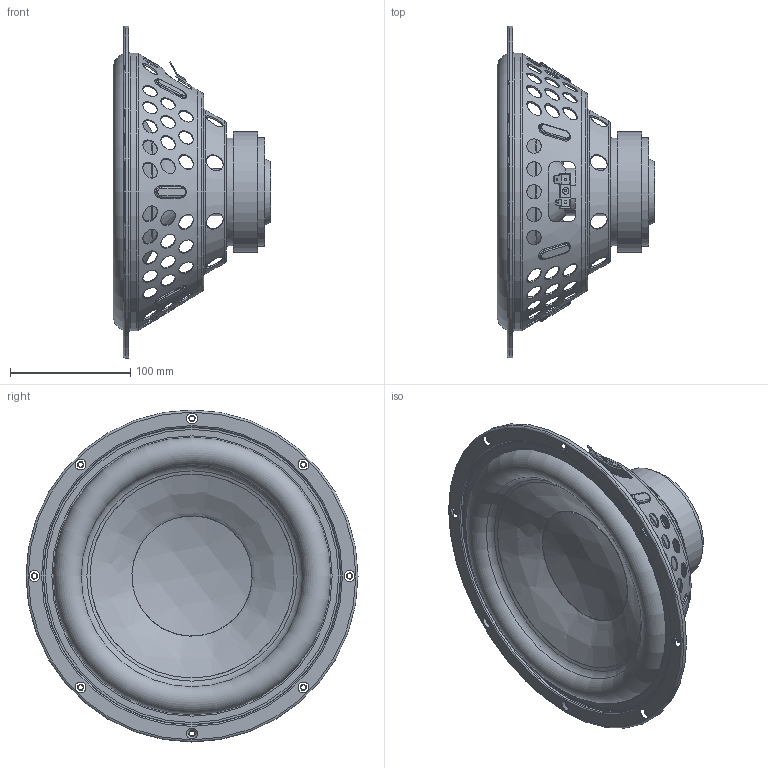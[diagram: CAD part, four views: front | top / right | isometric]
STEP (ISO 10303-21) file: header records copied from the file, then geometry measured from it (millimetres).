
FILE_DESCRIPTION(/* description */ ('STEP AP203'),/* implementation_level */ '2;1');
FILE_NAME(/* name */ 'PCS10-4.step',/* time_stamp */ '2026-03-10T13:29:36-04:00',/* author */ (''),/* organization */ (''),/* preprocessor_version */ 'ST-DEVELOPER v20.1',/* originating_system */ 'Autodesk Translation Framework v14.24.0.0',/* authorisation */ '');
FILE_SCHEMA (('AUTOMOTIVE_DESIGN { 1 0 10303 214 3 1 1 }'));
Length unit declared in the file: inch
Products named in the file (2): 10inch WF; 203-100-10161-1BAE
Assembly tree (1 placements, depth 2):
  10inch WF
    203-100-10161-1BAE
Bounding box: 131.1 x 276.4 x 276.4 mm (x, y, z)
Volume: 400810.1 mm3; surface area: 386238.9 mm2
Topology: 1 solids, 4 shells, 480 faces, 1254 edges, 819 vertices
Faces by surface type: cylinder 157, plane 153, bspline 117, cone 26, torus 23, sphere 4
Full cylindrical faces by diameter (mm): 2 x1, 4.2 x8, 5.8 x6, 6 x1, 6.2 x14, 12 x65, 14 x8, 15 x1, 27 x1, 35.35 x1, 35.75 x1, 36 x2, 36.2 x2, 39.3 x3, 60 x1, 90 x2, 100 x2, 151.5 x1, 229 x1, 231.4 x1, 244 x1, 248.4 x1, 250.8 x1, 274 x1, 276.4 x1
Entity records: 35256 total; most frequent: CARTESIAN_POINT 23976, ORIENTED_EDGE 2508, DIRECTION 1925, EDGE_CURVE 1254, VERTEX_POINT 819, AXIS2_PLACEMENT_3D 733, EDGE_LOOP 711, FACE_OUTER_BOUND 480
